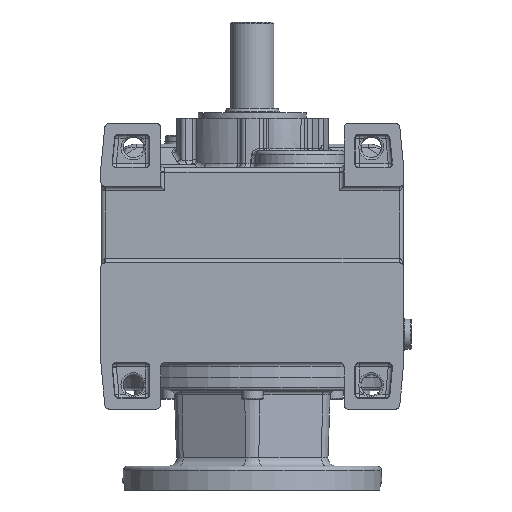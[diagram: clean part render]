
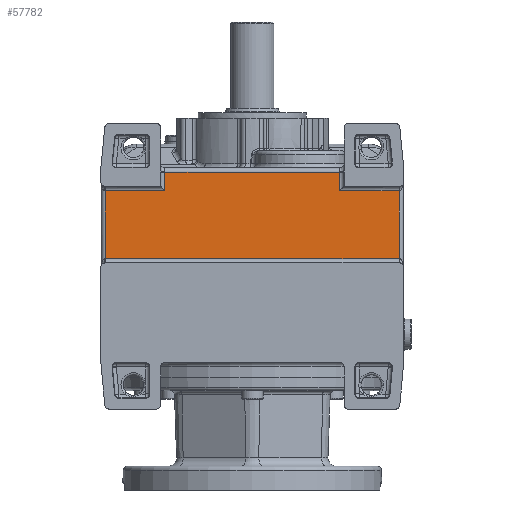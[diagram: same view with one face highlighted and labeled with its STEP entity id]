
A CAD part, front view. The second image highlights one B-rep face of the part: STEP entity #57782.
In plain terms, the highlighted planar face has unit normal (0, -1, 0).
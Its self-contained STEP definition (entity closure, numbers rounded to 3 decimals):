
#53296 = CARTESIAN_POINT ( 'NONE',  ( 40.43, -74., -33.57 ) ) ;
#53299 = DIRECTION ( 'NONE',  ( -1., 0., 0. ) ) ;
#53302 = VECTOR ( 'NONE', #53299, 1000. ) ;
#53306 = CARTESIAN_POINT ( 'NONE',  ( 40.43, -74., -33.57 ) ) ;
#53308 = LINE ( 'NONE', #53306, #53302 ) ;
#53488 = DIRECTION ( 'NONE',  ( -1., 0., 0. ) ) ;
#53490 = VECTOR ( 'NONE', #53488, 1000. ) ;
#53491 = CARTESIAN_POINT ( 'NONE',  ( -67.999, -74., -25. ) ) ;
#53492 = LINE ( 'NONE', #53491, #53490 ) ;
#53499 = CARTESIAN_POINT ( 'NONE',  ( 40.43, -74., -25. ) ) ;
#53503 = DIRECTION ( 'NONE',  ( 0., 0., 1. ) ) ;
#53504 = VECTOR ( 'NONE', #53503, 1000. ) ;
#53505 = CARTESIAN_POINT ( 'NONE',  ( 40.43, -74., -25. ) ) ;
#53508 = LINE ( 'NONE', #53505, #53504 ) ;
#53537 = DIRECTION ( 'NONE',  ( -1., 0., 0. ) ) ;
#53538 = VECTOR ( 'NONE', #53537, 1000. ) ;
#53541 = CARTESIAN_POINT ( 'NONE',  ( -67.929, -74., -33.57 ) ) ;
#53544 = LINE ( 'NONE', #53541, #53538 ) ;
#53548 = CARTESIAN_POINT ( 'NONE',  ( -40.43, -74., -33.57 ) ) ;
#53550 = CARTESIAN_POINT ( 'NONE',  ( -40.43, -74., -25. ) ) ;
#53553 = DIRECTION ( 'NONE',  ( 0., 0., -1. ) ) ;
#53555 = VECTOR ( 'NONE', #53553, 1000. ) ;
#53557 = CARTESIAN_POINT ( 'NONE',  ( -40.43, -74., -31.5 ) ) ;
#53559 = LINE ( 'NONE', #53557, #53555 ) ;
#53561 = DIRECTION ( 'NONE',  ( 1., 0., 0. ) ) ;
#53563 = DIRECTION ( 'NONE',  ( 0., -1., 0. ) ) ;
#53565 = CARTESIAN_POINT ( 'NONE',  ( -70., -74., -113. ) ) ;
#53566 = AXIS2_PLACEMENT_3D ( 'NONE', #53565, #53563, #53561 ) ;
#53568 = PLANE ( 'NONE',  #53566 ) ;
#53573 = FACE_OUTER_BOUND ( 'NONE', #57784, .T. ) ;
#54191 = CARTESIAN_POINT ( 'NONE',  ( -67.929, -74., -64.93 ) ) ;
#54197 = DIRECTION ( 'NONE',  ( 0., 0., -1. ) ) ;
#54198 = VECTOR ( 'NONE', #54197, 1000. ) ;
#54200 = CARTESIAN_POINT ( 'NONE',  ( -67.929, -74., -113. ) ) ;
#54203 = LINE ( 'NONE', #54200, #54198 ) ;
#54251 = CARTESIAN_POINT ( 'NONE',  ( -67.929, -74., -33.57 ) ) ;
#54397 = DIRECTION ( 'NONE',  ( 1., 0., 0. ) ) ;
#54399 = VECTOR ( 'NONE', #54397, 1000. ) ;
#54402 = CARTESIAN_POINT ( 'NONE',  ( 67.929, -74., -64.93 ) ) ;
#54404 = LINE ( 'NONE', #54402, #54399 ) ;
#56052 = VERTEX_POINT ( 'NONE', #90237 ) ;
#56054 = EDGE_CURVE ( 'NONE', #56057, #56052, #90228, .T. ) ;
#56057 = VERTEX_POINT ( 'NONE', #90221 ) ;
#57741 = ORIENTED_EDGE ( 'NONE', *, *, #56054, .T. ) ;
#57744 = ORIENTED_EDGE ( 'NONE', *, *, #57746, .T. ) ;
#57746 = EDGE_CURVE ( 'NONE', #56052, #57748, #53308, .T. ) ;
#57748 = VERTEX_POINT ( 'NONE', #53296 ) ;
#57750 = ORIENTED_EDGE ( 'NONE', *, *, #57753, .T. ) ;
#57753 = EDGE_CURVE ( 'NONE', #57748, #57756, #53508, .T. ) ;
#57756 = VERTEX_POINT ( 'NONE', #53499 ) ;
#57758 = ORIENTED_EDGE ( 'NONE', *, *, #57760, .T. ) ;
#57760 = EDGE_CURVE ( 'NONE', #57756, #57791, #53492, .T. ) ;
#57782 = ADVANCED_FACE ( 'NONE', ( #53573 ), #53568, .T. ) ;
#57784 = EDGE_LOOP ( 'NONE', ( #57786, #57795, #57958, #57964, #57741, #57744, #57750, #57758 ) ) ;
#57786 = ORIENTED_EDGE ( 'NONE', *, *, #57788, .T. ) ;
#57788 = EDGE_CURVE ( 'NONE', #57791, #57793, #53559, .T. ) ;
#57791 = VERTEX_POINT ( 'NONE', #53550 ) ;
#57793 = VERTEX_POINT ( 'NONE', #53548 ) ;
#57795 = ORIENTED_EDGE ( 'NONE', *, *, #57797, .T. ) ;
#57797 = EDGE_CURVE ( 'NONE', #57793, #57956, #53544, .T. ) ;
#57956 = VERTEX_POINT ( 'NONE', #54251 ) ;
#57958 = ORIENTED_EDGE ( 'NONE', *, *, #57960, .T. ) ;
#57960 = EDGE_CURVE ( 'NONE', #57956, #57962, #54203, .T. ) ;
#57962 = VERTEX_POINT ( 'NONE', #54191 ) ;
#57964 = ORIENTED_EDGE ( 'NONE', *, *, #57966, .T. ) ;
#57966 = EDGE_CURVE ( 'NONE', #57962, #56057, #54404, .T. ) ;
#90221 = CARTESIAN_POINT ( 'NONE',  ( 67.929, -74., -64.93 ) ) ;
#90223 = DIRECTION ( 'NONE',  ( 0., 0., 1. ) ) ;
#90225 = VECTOR ( 'NONE', #90223, 1000. ) ;
#90227 = CARTESIAN_POINT ( 'NONE',  ( 67.929, -74., -113. ) ) ;
#90228 = LINE ( 'NONE', #90227, #90225 ) ;
#90237 = CARTESIAN_POINT ( 'NONE',  ( 67.929, -74., -33.57 ) ) ;
